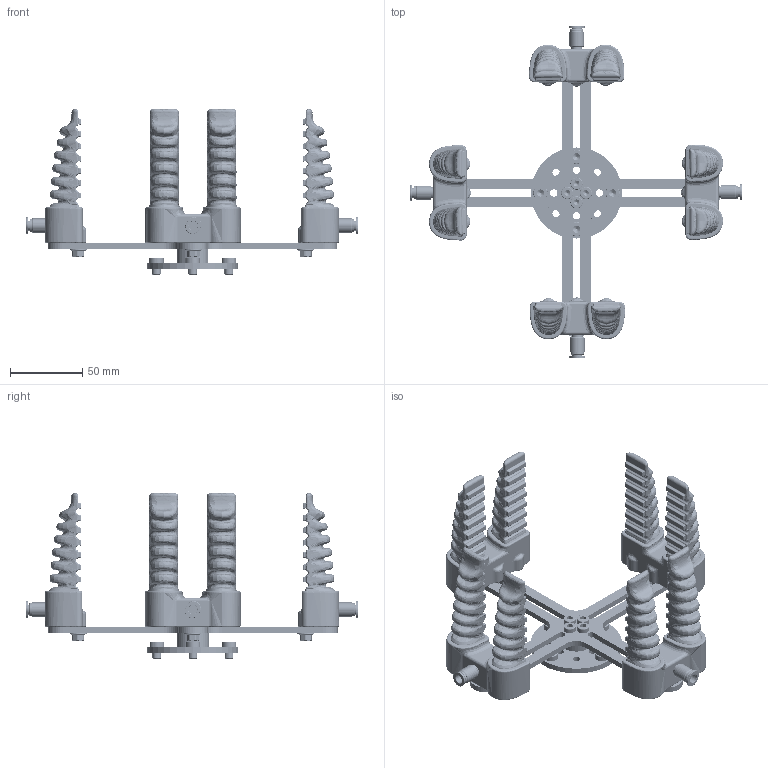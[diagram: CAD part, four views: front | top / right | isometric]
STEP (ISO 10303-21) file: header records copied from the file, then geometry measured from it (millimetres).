
FILE_DESCRIPTION (( 'STEP AP214' ), '1' );
FILE_NAME ('SG.AN.F2.S60.P4.A185.R50.STEP', '2022-03-28T13:11:09', ( '' ), ( '' ), 'SwSTEP 2.0', 'SolidWorks 2019', '' );
FILE_SCHEMA (( 'AUTOMOTIVE_DESIGN' ));
Length unit declared in the file: millimetre
Products named in the file (31): SG.AN.R50; SG.FI.SD; SG.AN.P4.A185; SG.A.IL.F2.02.S60; SG.AN.F2; SG_FI.60; M3x20-ISO_7380-2; DIN 7984 I-6Kt Zyl-Schr. A2 M 5x8; SG.FI..IF; o-Ring_3x1; KVT 6238 M5-316; Finger_lang - gefuellt; iqsmm56i_10795; SG.AN.F2.S60.P4.A185.R50; DIN_6921_Schraube M5x12 Flansch; DIN 7984 I-6Kt Zyl-Schr. A2 M 6x8
Assembly tree (95 placements, depth 4):
  SG.AN.F2.S60.P4.A185.R50
    DIN 7984 I-6Kt Zyl-Schr. A2 M 5x8  x4
    SG.AN.P4.A185
    SG.A.IL.F2.02.S60
      SG_FI.60
        Finger_lang - gefuellt
        SG.FI..IF
        SG.FI.SD
      SG_FI.60
        Finger_lang - gefuellt
        SG.FI..IF
        SG.FI.SD
      SG.AN.F2
        SG.AN.F2
        KVT 6238 M5-316  x4
        M3x20-ISO_7380-2  x2
        o-Ring_3x1  x2
        iqsmm56i_10795
        DIN_6921_Schraube M5x12 Flansch
    SG.A.IL.F2.02.S60
      SG_FI.60
        Finger_lang - gefuellt
        SG.FI..IF
        SG.FI.SD
      SG_FI.60
        Finger_lang - gefuellt
        SG.FI..IF
        SG.FI.SD
      SG.AN.F2
        SG.AN.F2
        KVT 6238 M5-316  x4
        M3x20-ISO_7380-2  x2
        o-Ring_3x1  x2
        iqsmm56i_10795
        DIN_6921_Schraube M5x12 Flansch
    SG.A.IL.F2.02.S60
      SG_FI.60
        Finger_lang - gefuellt
        SG.FI..IF
        SG.FI.SD
      SG_FI.60
        Finger_lang - gefuellt
        SG.FI..IF
        SG.FI.SD
      SG.AN.F2
        SG.AN.F2
        KVT 6238 M5-316  x4
        M3x20-ISO_7380-2  x2
        o-Ring_3x1  x2
        iqsmm56i_10795
        DIN_6921_Schraube M5x12 Flansch
    SG.A.IL.F2.02.S60
      SG_FI.60
        Finger_lang - gefuellt
        SG.FI..IF
        SG.FI.SD
      SG_FI.60
        Finger_lang - gefuellt
        SG.FI..IF
        SG.FI.SD
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Bounding box: 229.26 x 229.59 x 114.65 mm (x, y, z)
Volume: 342564.5 mm3; surface area: 176387.2 mm2
Topology: 82 solids, 82 shells, 7671 faces, 18482 edges, 10808 vertices
Faces by surface type: bspline 3388, cylinder 1498, plane 1217, sphere 720, cone 440, torus 408
Entity records: 91387 total; most frequent: CARTESIAN_POINT 63652, ORIENTED_EDGE 5964, DIRECTION 4991, EDGE_CURVE 2982, AXIS2_PLACEMENT_3D 2117, VERTEX_POINT 1793, EDGE_LOOP 1373, FACE_OUTER_BOUND 1262
